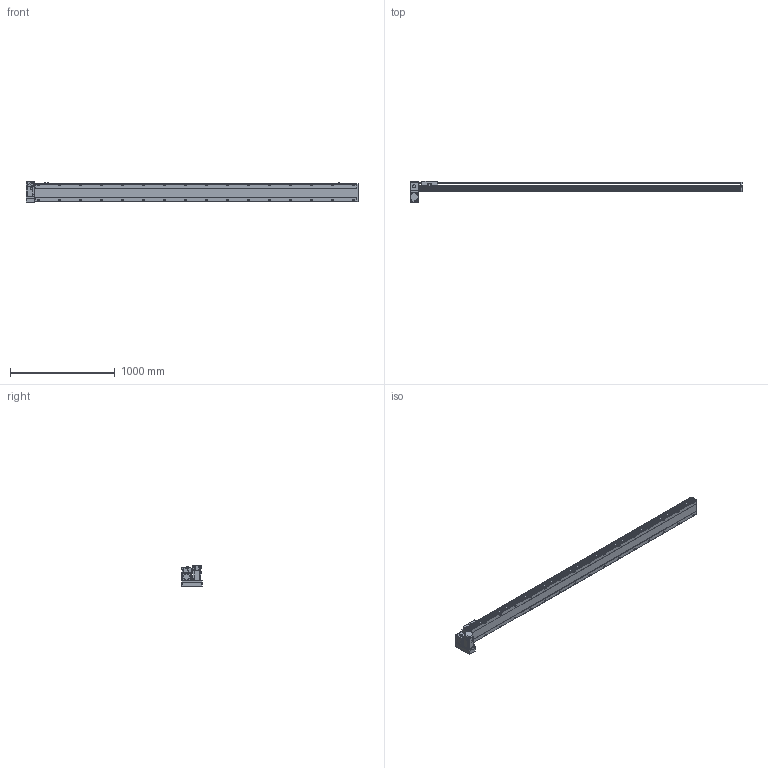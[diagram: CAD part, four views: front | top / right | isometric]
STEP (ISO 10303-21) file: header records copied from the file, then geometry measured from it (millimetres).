
FILE_DESCRIPTION( ( 'STEP AP214' ), '1' );
FILE_NAME( 'x:/temp/worker_4/temp/exporttempdir_2248_365_Rqafx/format_0/PBS170-P40-S2800-LD-T75-C1-N(0).stp', '2022-06-07T07:56:45', ( 'License CC BY-ND 4.0' ), ( 'CADENAS' ), ' ', 'PARTsolutions', ' ' );
FILE_SCHEMA( ( 'AUTOMOTIVE_DESIGN { 1 0 10303 214 1 1 1 1 }' ) );
Length unit declared in the file: millimetre
Products named in the file (7): PBS170-P40-S2800-LD-T75-C1-N(0); _PBS170-S2800()_body; _PBS170T-LD_motors; _T75-p1; _PBS170_sliser; _PBS170_plant; _PBS170_sensor
Assembly tree (8 placements, depth 2):
  PBS170-P40-S2800-LD-T75-C1-N(0)
    _PBS170-S2800()_body
    _PBS170T-LD_motors
    _T75-p1
    _PBS170_sliser
    _PBS170_plant
    _PBS170_sensor  x3
Bounding box: 3163 x 201 x 197.3 mm (x, y, z)
Volume: 23818205.2 mm3; surface area: 2986693.6 mm2
Topology: 8 solids, 8 shells, 1210 faces, 3195 edges, 2082 vertices
Faces by surface type: plane 735, cylinder 403, cone 62, sphere 8, torus 2
Full cylindrical faces by diameter (mm): 3.242 x4, 4 x2, 4.4 x4, 4.5 x6, 4.917 x4, 6 x9, 6.647 x40, 7 x2, 7.5 x4, 8 x8, 8.5 x32, 10 x4, 10.5 x32, 11 x2, 30 x2, 40 x1, 70 x1
Entity records: 44876 total; most frequent: CARTESIAN_POINT 7565, DIRECTION 5860, ORIENTED_EDGE 5508, EDGE_CURVE 2754, AXIS2_PLACEMENT_3D 2077, VERTEX_POINT 1922, LINE 1706, VECTOR 1706
